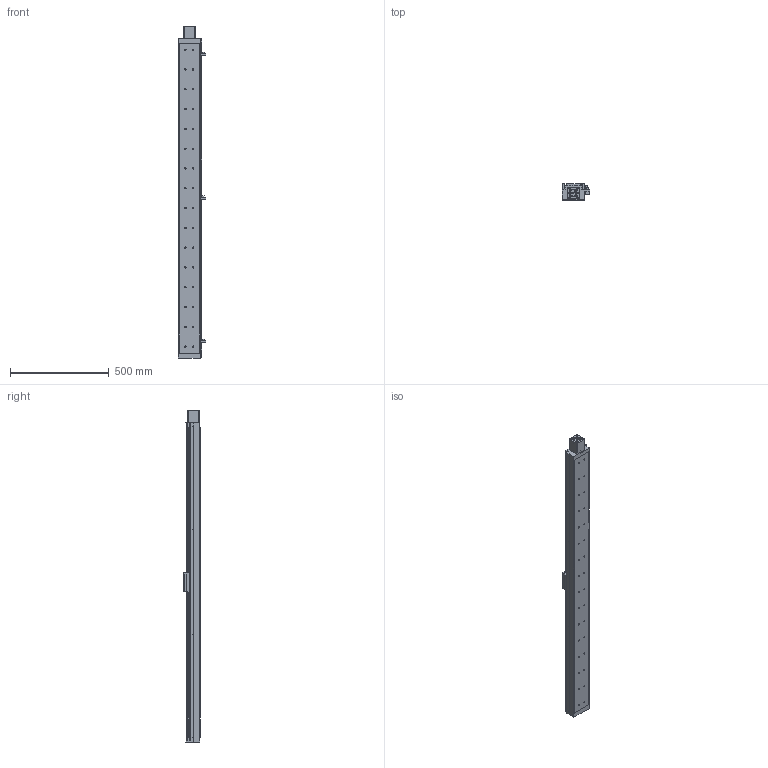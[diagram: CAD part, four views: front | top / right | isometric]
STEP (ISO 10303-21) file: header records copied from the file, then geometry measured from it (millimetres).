
FILE_DESCRIPTION((''),'2;1');
FILE_NAME('E:\libraries\UIA actuator library 2009\standard actuator\UIA110R12(15)DC\UIA110R12(15)DC-ball screw dia.20\UIA110R12(15)DC-_ _ _-R20_ _-M23 step file 20Apr16\UIA110R12(15)DC-1450-R20_ _-M23-P13-C10-S.stp','2016-04-22T13:18:26',('h029'),(''),'Autodesk Inventor 11','Autodesk Inventor 11','');
FILE_SCHEMA(('AUTOMOTIVE_DESIGN { 1 0 10303 214 1 1 1 1 }'));
Length unit declared in the file: millimetre
Products named in the file (10): UIA110R12(15)DC-1450, ball screw dia.20; body, UIA110R12(15)DC-1450,ball screw dia.20; Carriage, UIA110R12(15)DC; Sen Switch, UIA110R12(15)DC; sensor rail, UIA110R12(15)DC-1450; SOH-32C; SOH-32C-3; SOH-32C-1; SOH-32C-2; M23 motor mount
Assembly tree (9 placements, depth 3):
  UIA110R12(15)DC-1450, ball screw dia.20
    body, UIA110R12(15)DC-1450,ball screw dia.20
    Carriage, UIA110R12(15)DC
    Sen Switch, UIA110R12(15)DC
    sensor rail, UIA110R12(15)DC-1450
    SOH-32C
      SOH-32C-3
      SOH-32C-1
      SOH-32C-2
    M23 motor mount
Bounding box: 136.5 x 81 x 1677 mm (x, y, z)
Volume: 12019985.9 mm3; surface area: 880089.4 mm2
Topology: 8 solids, 8 shells, 709 faces, 1824 edges, 1197 vertices
Faces by surface type: plane 443, cylinder 164, bspline 83, cone 19
Full cylindrical faces by diameter (mm): 2.459 x4, 3.242 x4, 4 x6, 4.5 x4, 5.5 x3, 6.35 x1, 6.5 x32, 7.5 x4, 9.5 x6, 10 x2, 10.5 x32, 12 x1, 25 x1, 32 x3, 37 x1, 38.1 x1, 42 x1, 42.01 x1, 43.5 x1
Entity records: 21860 total; most frequent: CARTESIAN_POINT 5379, DIRECTION 3351, ORIENTED_EDGE 3098, EDGE_CURVE 1549, AXIS2_PLACEMENT_3D 1174, VERTEX_POINT 1120, EDGE_LOOP 1021, VECTOR 1003
